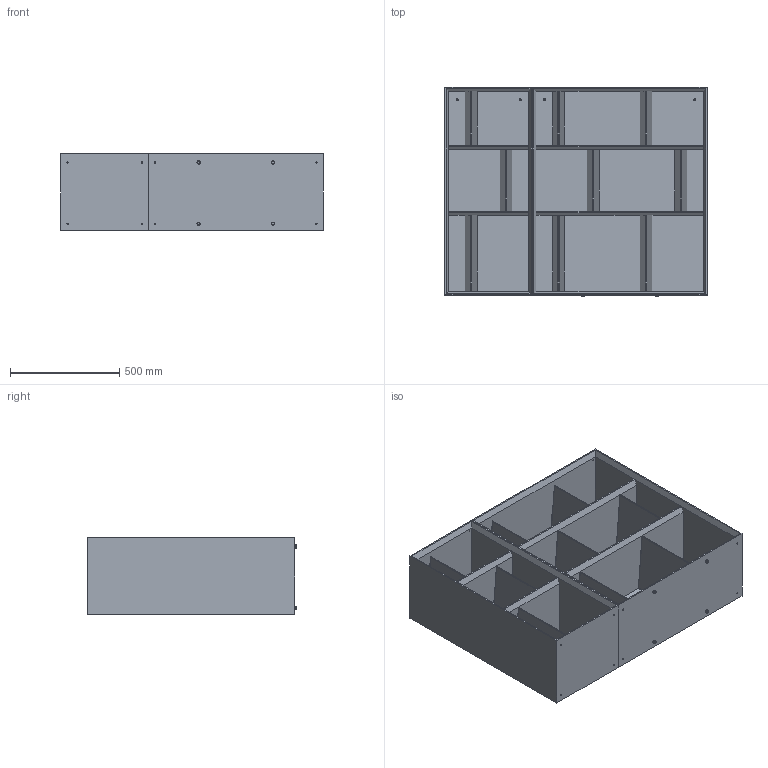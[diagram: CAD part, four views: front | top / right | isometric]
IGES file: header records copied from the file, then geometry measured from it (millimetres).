
Start section: SolidWorks IGES file using analytic representation for surfaces
Global section: file name: Y:\eforma\TECNICO\SOLIDWORKS\E-FORMA\08-LIBRERIE\LIBRERIA BENDY\02 parts\BL30S_Bendy A+B_120x35x95h.IGS; native system: SolidWorks 2022; preprocessor: SolidWorks 2022; author: eforma.tech; date: 240806.103113; units: millimetre
Bounding box: 1200 x 957 x 350 mm (x, y, z)
Volume: 60473697.7 mm3; surface area: 11312919.4 mm2
Topology: 31 solids, 31 shells, 610 faces, 1434 edges, 880 vertices
Faces by surface type: plane 370, revolution 240
